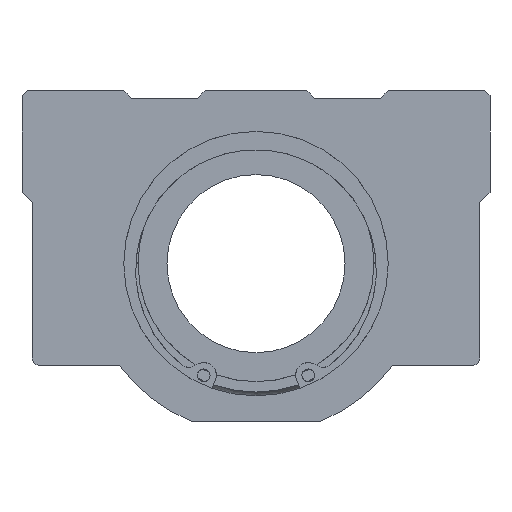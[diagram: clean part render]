
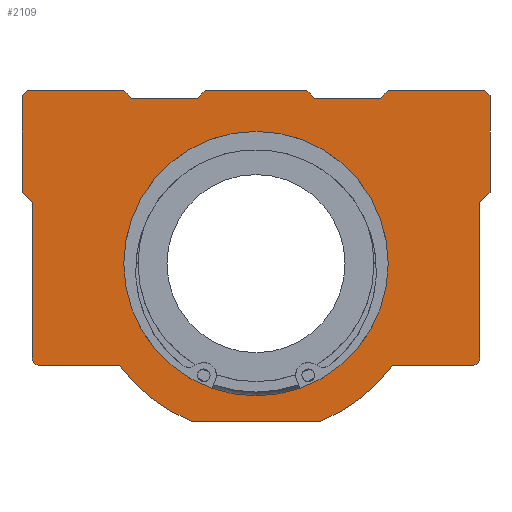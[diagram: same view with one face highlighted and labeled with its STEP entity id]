
A CAD part, left-side view. The second image highlights one B-rep face of the part: STEP entity #2109.
In plain terms, the highlighted planar face has unit normal (-1, 0, 0).
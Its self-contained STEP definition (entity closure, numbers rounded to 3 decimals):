
#1512=CARTESIAN_POINT('',(0.0,11.5,32.5));
#1513=VERTEX_POINT('',#1512);
#1514=CARTESIAN_POINT('',(0.0,10.,34.0));
#1515=VERTEX_POINT('',#1514);
#1516=CARTESIAN_POINT('',(0.0,11.5,32.5));
#1517=DIRECTION('',(0.0,-0.707,0.707));
#1518=VECTOR('',#1517,2.121);
#1519=LINE('',#1516,#1518);
#1520=EDGE_CURVE('',#1513,#1515,#1519,.T.);
#1562=CARTESIAN_POINT('',(0.0,-10.,34.));
#1563=VERTEX_POINT('',#1562);
#1570=CARTESIAN_POINT('',(0.0,-11.5,32.5));
#1571=VERTEX_POINT('',#1570);
#1572=CARTESIAN_POINT('',(0.0,-10.,34.));
#1573=DIRECTION('',(0.0,-0.707,-0.707));
#1574=VECTOR('',#1573,2.121);
#1575=LINE('',#1572,#1574);
#1576=EDGE_CURVE('',#1563,#1571,#1575,.T.);
#1599=CARTESIAN_POINT('',(0.0,10.,34.0));
#1600=DIRECTION('',(0.0,-1.0,0.0));
#1601=VECTOR('',#1600,20.);
#1602=LINE('',#1599,#1601);
#1603=EDGE_CURVE('',#1515,#1563,#1602,.T.);
#1623=CARTESIAN_POINT('',(0.0,24.5,32.5));
#1624=VERTEX_POINT('',#1623);
#1631=CARTESIAN_POINT('',(0.0,24.5,32.5));
#1632=DIRECTION('',(0.0,-1.0,0.0));
#1633=VECTOR('',#1632,13.);
#1634=LINE('',#1631,#1633);
#1635=EDGE_CURVE('',#1624,#1513,#1634,.T.);
#1646=CARTESIAN_POINT('',(0.0,-24.5,32.5));
#1647=VERTEX_POINT('',#1646);
#1648=CARTESIAN_POINT('',(0.0,-11.5,32.5));
#1649=DIRECTION('',(0.0,-1.0,0.0));
#1650=VECTOR('',#1649,13.);
#1651=LINE('',#1648,#1650);
#1652=EDGE_CURVE('',#1571,#1647,#1651,.T.);
#1687=CARTESIAN_POINT('',(0.0,42.5,-20.));
#1688=VERTEX_POINT('',#1687);
#1695=CARTESIAN_POINT('',(0.0,44.,-18.5));
#1696=VERTEX_POINT('',#1695);
#1697=CARTESIAN_POINT('',(0.0,42.5,-18.5));
#1698=DIRECTION('',(1.,0.0,0.0));
#1699=DIRECTION('',(0.0,0.707,-0.707));
#1700=AXIS2_PLACEMENT_3D('',#1697,#1698,#1699);
#1701=CIRCLE('',#1700,1.5);
#1702=EDGE_CURVE('',#1688,#1696,#1701,.T.);
#1727=CARTESIAN_POINT('',(0.0,26.875,-20.));
#1728=VERTEX_POINT('',#1727);
#1735=CARTESIAN_POINT('',(0.0,26.875,-20.));
#1736=DIRECTION('',(0.0,1.0,0.0));
#1737=VECTOR('',#1736,15.625);
#1738=LINE('',#1735,#1737);
#1739=EDGE_CURVE('',#1728,#1688,#1738,.T.);
#1933=CARTESIAN_POINT('',(0.0,-44.,-18.5));
#1934=VERTEX_POINT('',#1933);
#1941=CARTESIAN_POINT('',(0.0,-42.5,-20.));
#1942=VERTEX_POINT('',#1941);
#1943=CARTESIAN_POINT('',(0.0,-42.5,-18.5));
#1944=DIRECTION('',(1.,0.0,0.0));
#1945=DIRECTION('',(0.0,-0.707,-0.707));
#1946=AXIS2_PLACEMENT_3D('',#1943,#1944,#1945);
#1947=CIRCLE('',#1946,1.5);
#1948=EDGE_CURVE('',#1934,#1942,#1947,.T.);
#1959=CARTESIAN_POINT('',(0.0,0.,4.318));
#1960=DIRECTION('',(1.0,0.0,0.0));
#1961=DIRECTION('',(0.0,0.0,-1.0));
#1962=AXIS2_PLACEMENT_3D('',#1959,#1960,#1961);
#1963=PLANE('',#1962);
#1964=ORIENTED_EDGE('',*,*,#1702,.F.);
#1965=ORIENTED_EDGE('',*,*,#1739,.F.);
#1966=CARTESIAN_POINT('',(0.0,12.698,-31.));
#1967=VERTEX_POINT('',#1966);
#1968=CARTESIAN_POINT('',(0.0,0.0,0.0));
#1969=DIRECTION('',(1.,0.0,0.0));
#1970=DIRECTION('',(0.0,0.379,-0.925));
#1971=AXIS2_PLACEMENT_3D('',#1968,#1969,#1970);
#1972=CIRCLE('',#1971,33.5);
#1973=EDGE_CURVE('',#1967,#1728,#1972,.T.);
#1974=ORIENTED_EDGE('',*,*,#1973,.F.);
#1975=CARTESIAN_POINT('',(0.0,-12.698,-31.));
#1976=VERTEX_POINT('',#1975);
#1977=CARTESIAN_POINT('',(0.0,-12.698,-31.));
#1978=DIRECTION('',(0.0,1.0,0.0));
#1979=VECTOR('',#1978,25.397);
#1980=LINE('',#1977,#1979);
#1981=EDGE_CURVE('',#1976,#1967,#1980,.T.);
#1982=ORIENTED_EDGE('',*,*,#1981,.F.);
#1983=CARTESIAN_POINT('',(0.0,-26.875,-20.));
#1984=VERTEX_POINT('',#1983);
#1985=CARTESIAN_POINT('',(0.0,0.0,0.0));
#1986=DIRECTION('',(1.,0.0,0.0));
#1987=DIRECTION('',(0.0,0.379,-0.925));
#1988=AXIS2_PLACEMENT_3D('',#1985,#1986,#1987);
#1989=CIRCLE('',#1988,33.5);
#1990=EDGE_CURVE('',#1984,#1976,#1989,.T.);
#1991=ORIENTED_EDGE('',*,*,#1990,.F.);
#1992=CARTESIAN_POINT('',(0.0,-42.5,-20.));
#1993=DIRECTION('',(0.0,1.0,0.0));
#1994=VECTOR('',#1993,15.625);
#1995=LINE('',#1992,#1994);
#1996=EDGE_CURVE('',#1942,#1984,#1995,.T.);
#1997=ORIENTED_EDGE('',*,*,#1996,.F.);
#1998=ORIENTED_EDGE('',*,*,#1948,.F.);
#1999=CARTESIAN_POINT('',(0.0,-44.,12.));
#2000=VERTEX_POINT('',#1999);
#2001=CARTESIAN_POINT('',(0.0,-44.,12.));
#2002=DIRECTION('',(0.0,0.0,-1.0));
#2003=VECTOR('',#2002,30.5);
#2004=LINE('',#2001,#2003);
#2005=EDGE_CURVE('',#2000,#1934,#2004,.T.);
#2006=ORIENTED_EDGE('',*,*,#2005,.F.);
#2007=CARTESIAN_POINT('',(0.0,-46.,14.));
#2008=VERTEX_POINT('',#2007);
#2009=CARTESIAN_POINT('',(0.0,-46.,14.));
#2010=DIRECTION('',(0.0,0.707,-0.707));
#2011=VECTOR('',#2010,2.828);
#2012=LINE('',#2009,#2011);
#2013=EDGE_CURVE('',#2008,#2000,#2012,.T.);
#2014=ORIENTED_EDGE('',*,*,#2013,.F.);
#2015=CARTESIAN_POINT('',(0.0,-46.,33.));
#2016=VERTEX_POINT('',#2015);
#2017=CARTESIAN_POINT('',(0.0,-46.,33.));
#2018=DIRECTION('',(0.0,0.0,-1.0));
#2019=VECTOR('',#2018,19.);
#2020=LINE('',#2017,#2019);
#2021=EDGE_CURVE('',#2016,#2008,#2020,.T.);
#2022=ORIENTED_EDGE('',*,*,#2021,.F.);
#2023=CARTESIAN_POINT('',(0.0,-45.,34.));
#2024=VERTEX_POINT('',#2023);
#2025=CARTESIAN_POINT('',(0.0,-45.,34.));
#2026=DIRECTION('',(0.0,-0.707,-0.707));
#2027=VECTOR('',#2026,1.414);
#2028=LINE('',#2025,#2027);
#2029=EDGE_CURVE('',#2024,#2016,#2028,.T.);
#2030=ORIENTED_EDGE('',*,*,#2029,.F.);
#2031=CARTESIAN_POINT('',(0.0,-26.0,34.));
#2032=VERTEX_POINT('',#2031);
#2033=CARTESIAN_POINT('',(0.0,-26.0,34.));
#2034=DIRECTION('',(0.0,-1.0,0.0));
#2035=VECTOR('',#2034,19.);
#2036=LINE('',#2033,#2035);
#2037=EDGE_CURVE('',#2032,#2024,#2036,.T.);
#2038=ORIENTED_EDGE('',*,*,#2037,.F.);
#2039=CARTESIAN_POINT('',(0.0,-24.5,32.5));
#2040=DIRECTION('',(0.0,-0.707,0.707));
#2041=VECTOR('',#2040,2.121);
#2042=LINE('',#2039,#2041);
#2043=EDGE_CURVE('',#1647,#2032,#2042,.T.);
#2044=ORIENTED_EDGE('',*,*,#2043,.F.);
#2045=ORIENTED_EDGE('',*,*,#1652,.F.);
#2046=ORIENTED_EDGE('',*,*,#1576,.F.);
#2047=ORIENTED_EDGE('',*,*,#1603,.F.);
#2048=ORIENTED_EDGE('',*,*,#1520,.F.);
#2049=ORIENTED_EDGE('',*,*,#1635,.F.);
#2050=CARTESIAN_POINT('',(0.0,26.0,34.));
#2051=VERTEX_POINT('',#2050);
#2052=CARTESIAN_POINT('',(0.0,26.0,34.));
#2053=DIRECTION('',(0.0,-0.707,-0.707));
#2054=VECTOR('',#2053,2.121);
#2055=LINE('',#2052,#2054);
#2056=EDGE_CURVE('',#2051,#1624,#2055,.T.);
#2057=ORIENTED_EDGE('',*,*,#2056,.F.);
#2058=CARTESIAN_POINT('',(0.0,45.,34.));
#2059=VERTEX_POINT('',#2058);
#2060=CARTESIAN_POINT('',(0.0,45.,34.));
#2061=DIRECTION('',(0.0,-1.0,0.0));
#2062=VECTOR('',#2061,19.);
#2063=LINE('',#2060,#2062);
#2064=EDGE_CURVE('',#2059,#2051,#2063,.T.);
#2065=ORIENTED_EDGE('',*,*,#2064,.F.);
#2066=CARTESIAN_POINT('',(0.0,46.,33.));
#2067=VERTEX_POINT('',#2066);
#2068=CARTESIAN_POINT('',(0.0,46.,33.));
#2069=DIRECTION('',(0.0,-0.707,0.707));
#2070=VECTOR('',#2069,1.414);
#2071=LINE('',#2068,#2070);
#2072=EDGE_CURVE('',#2067,#2059,#2071,.T.);
#2073=ORIENTED_EDGE('',*,*,#2072,.F.);
#2074=CARTESIAN_POINT('',(0.0,46.,14.));
#2075=VERTEX_POINT('',#2074);
#2076=CARTESIAN_POINT('',(0.0,46.,14.));
#2077=DIRECTION('',(0.0,0.0,1.0));
#2078=VECTOR('',#2077,19.);
#2079=LINE('',#2076,#2078);
#2080=EDGE_CURVE('',#2075,#2067,#2079,.T.);
#2081=ORIENTED_EDGE('',*,*,#2080,.F.);
#2082=CARTESIAN_POINT('',(0.0,44.,12.));
#2083=VERTEX_POINT('',#2082);
#2084=CARTESIAN_POINT('',(0.0,44.,12.));
#2085=DIRECTION('',(0.0,0.707,0.707));
#2086=VECTOR('',#2085,2.828);
#2087=LINE('',#2084,#2086);
#2088=EDGE_CURVE('',#2083,#2075,#2087,.T.);
#2089=ORIENTED_EDGE('',*,*,#2088,.F.);
#2090=CARTESIAN_POINT('',(0.0,44.,-18.5));
#2091=DIRECTION('',(0.0,0.0,1.0));
#2092=VECTOR('',#2091,30.5);
#2093=LINE('',#2090,#2092);
#2094=EDGE_CURVE('',#1696,#2083,#2093,.T.);
#2095=ORIENTED_EDGE('',*,*,#2094,.F.);
#2096=EDGE_LOOP('',(#1964,#1965,#1974,#1982,#1991,#1997,#1998,#2006,#2014,#2022,#2030,#2038,#2044,#2045,#2046,#2047,#2048,#2049,#2057,#2065,#2073,#2081,#2089,#2095));
#2097=FACE_OUTER_BOUND('',#2096,.T.);
#2098=CARTESIAN_POINT('',(0.0,26.0,0.));
#2099=VERTEX_POINT('',#2098);
#2100=CARTESIAN_POINT('',(0.0,0.0,0.0));
#2101=DIRECTION('',(1.0,0.0,0.0));
#2102=DIRECTION('',(0.0,-1.0,0.0));
#2103=AXIS2_PLACEMENT_3D('',#2100,#2101,#2102);
#2104=CIRCLE('',#2103,26.0);
#2105=EDGE_CURVE('',#2099,#2099,#2104,.T.);
#2106=ORIENTED_EDGE('',*,*,#2105,.T.);
#2107=EDGE_LOOP('',(#2106));
#2108=FACE_BOUND('',#2107,.T.);
#2109=ADVANCED_FACE('',(#2097,#2108),#1963,.F.);
